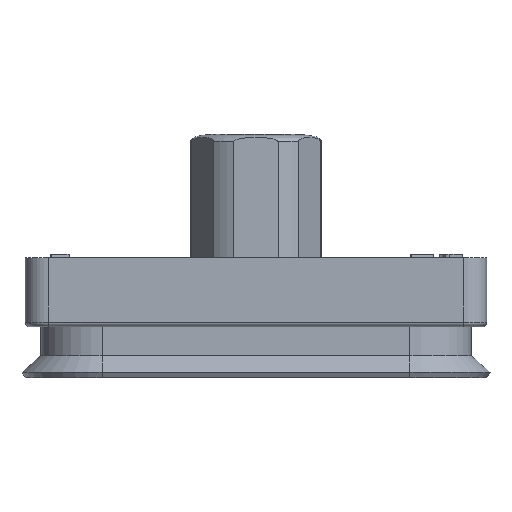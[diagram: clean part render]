
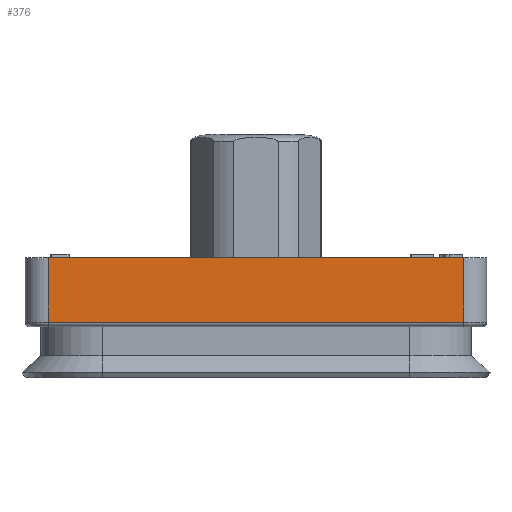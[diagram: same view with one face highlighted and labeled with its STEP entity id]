
A CAD part, front view. The second image highlights one B-rep face of the part: STEP entity #376.
In plain terms, the highlighted planar face has unit normal (0, -1, 0).
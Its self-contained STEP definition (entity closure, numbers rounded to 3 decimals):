
#376 = ADVANCED_FACE( '', ( #823 ), #824, .T. );
#823 = FACE_OUTER_BOUND( '', #1401, .T. );
#824 = PLANE( '', #1402 );
#1401 = EDGE_LOOP( '', ( #2661, #2662, #2663, #2664 ) );
#1402 = AXIS2_PLACEMENT_3D( '', #2665, #2666, #2667 );
#2661 = ORIENTED_EDGE( '', *, *, #3771, .T. );
#2662 = ORIENTED_EDGE( '', *, *, #3758, .T. );
#2663 = ORIENTED_EDGE( '', *, *, #3772, .F. );
#2664 = ORIENTED_EDGE( '', *, *, #3702, .F. );
#2665 = CARTESIAN_POINT( '', ( -13.5, -4.3, -6. ) );
#2666 = DIRECTION( '', ( 0., -1., 0. ) );
#2667 = DIRECTION( '', ( 0., 0., -1. ) );
#3702 = EDGE_CURVE( '', #4216, #4445, #4446, .T. );
#3758 = EDGE_CURVE( '', #4310, #4521, #4522, .T. );
#3771 = EDGE_CURVE( '', #4216, #4310, #4536, .T. );
#3772 = EDGE_CURVE( '', #4445, #4521, #4537, .T. );
#4216 = VERTEX_POINT( '', #5396 );
#4310 = VERTEX_POINT( '', #5625 );
#4445 = VERTEX_POINT( '', #5932 );
#4446 = LINE( '', #5933, #5934 );
#4521 = VERTEX_POINT( '', #6201 );
#4522 = LINE( '', #6202, #6203 );
#4536 = LINE( '', #6225, #6226 );
#4537 = LINE( '', #6227, #6228 );
#5396 = CARTESIAN_POINT( '', ( -13.5, -4.3, -5.7 ) );
#5625 = CARTESIAN_POINT( '', ( 13.5, -4.3, -5.7 ) );
#5932 = CARTESIAN_POINT( '', ( -13.5, -4.3, -1.5 ) );
#5933 = CARTESIAN_POINT( '', ( -13.5, -4.3, -6. ) );
#5934 = VECTOR( '', #6836, 1000. );
#6201 = CARTESIAN_POINT( '', ( 13.5, -4.3, -1.5 ) );
#6202 = CARTESIAN_POINT( '', ( 13.5, -4.3, -6. ) );
#6203 = VECTOR( '', #6863, 1000. );
#6225 = CARTESIAN_POINT( '', ( 13.5, -4.3, -5.7 ) );
#6226 = VECTOR( '', #6870, 1000. );
#6227 = CARTESIAN_POINT( '', ( -13.5, -4.3, -1.5 ) );
#6228 = VECTOR( '', #6871, 1000. );
#6836 = DIRECTION( '', ( 0., 0., 1. ) );
#6863 = DIRECTION( '', ( 0., 0., 1. ) );
#6870 = DIRECTION( '', ( 1., 0., 0. ) );
#6871 = DIRECTION( '', ( 1., 0., 0. ) );
